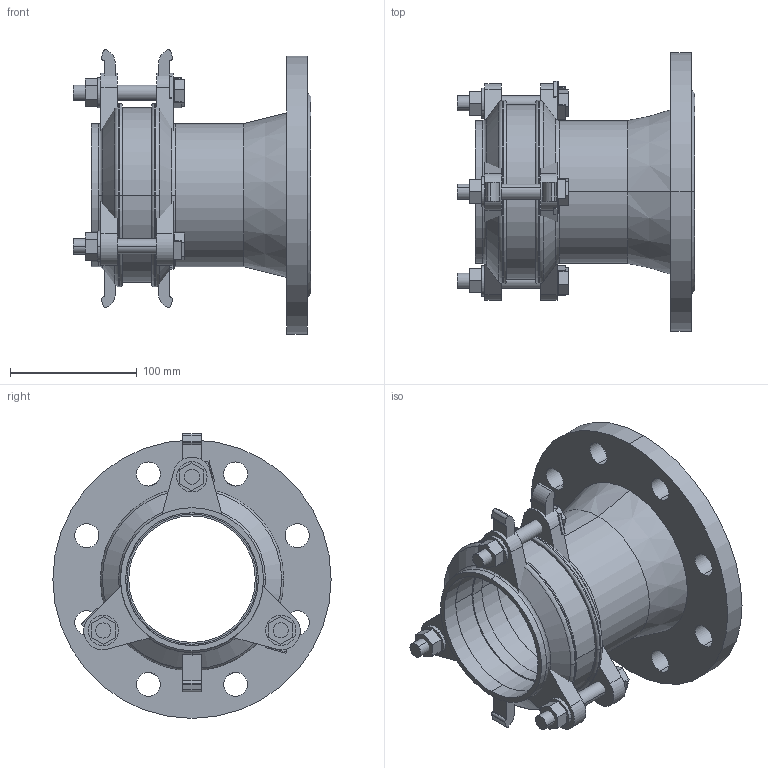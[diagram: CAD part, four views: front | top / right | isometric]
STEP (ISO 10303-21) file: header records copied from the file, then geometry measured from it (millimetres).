
FILE_DESCRIPTION(('STEP AP214'),'1');
FILE_NAME('EM00004439 DN 100-80.STP','2015-01-29T09:05:43',(' '),(' '),'Spatial InterOp 3D',' ',' ');
FILE_SCHEMA(('automotive_design'));
Length unit declared in the file: millimetre
Products named in the file (36): 3D-Objekt
Bounding box: 188 x 220 x 225.05 mm (x, y, z)
Volume: 1206829.7 mm3; surface area: 360657.5 mm2
Topology: 36 solids, 36 shells, 297 faces, 673 edges, 448 vertices
Faces by surface type: plane 182, cylinder 91, cone 12, torus 12
Entity records: 11641 total; most frequent: DIRECTION 1579, CARTESIAN_POINT 1454, ORIENTED_EDGE 1346, EDGE_CURVE 673, AXIS2_PLACEMENT_3D 573, VERTEX_POINT 448, LINE 433, VECTOR 433
